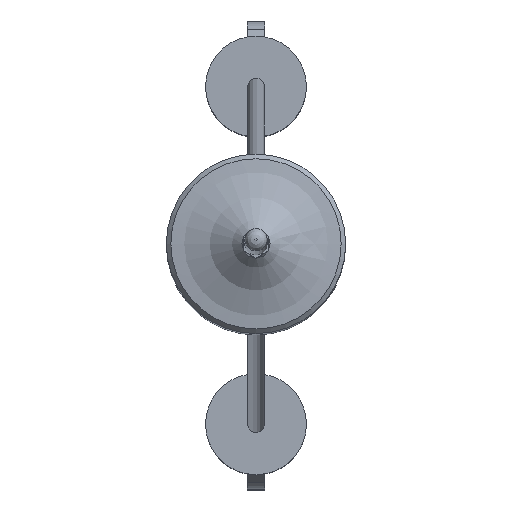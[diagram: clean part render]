
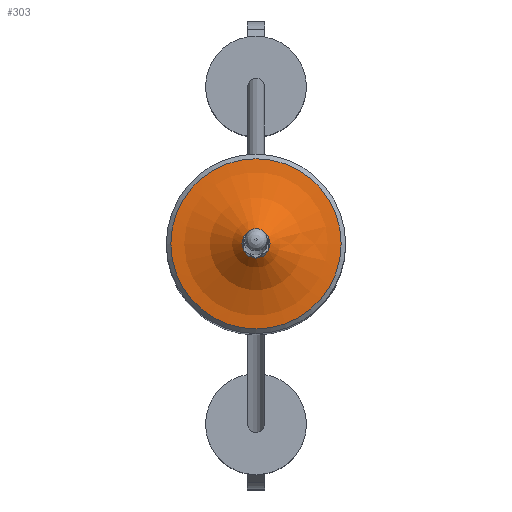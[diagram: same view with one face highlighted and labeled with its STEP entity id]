
A CAD part, top view. The second image highlights one B-rep face of the part: STEP entity #303.
In plain terms, the highlighted toroidal (fillet/blend) face has major radius 4 mm and minor radius 4.524 mm.
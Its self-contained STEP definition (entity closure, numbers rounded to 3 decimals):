
#49 = CARTESIAN_POINT ( 'NONE',  ( -0.494, 0.414, -3.5 ) ) ;
#56 = CARTESIAN_POINT ( 'NONE',  ( 0.55, 0.317, -3.5 ) ) ;
#63 = CARTESIAN_POINT ( 'NONE',  ( -0.635, 0.11, -3.5 ) ) ;
#71 = CARTESIAN_POINT ( 'NONE',  ( -0.112, 0.635, -3.5 ) ) ;
#144 = CARTESIAN_POINT ( 'NONE',  ( 0.55, 0.317, -3.5 ) ) ;
#145 = EDGE_CURVE ( 'NONE', #1350, #2056, #1484, .T. ) ;
#150 = CARTESIAN_POINT ( 'NONE',  ( 0.494, 0.414, -3.5 ) ) ;
#152 = VERTEX_POINT ( 'NONE', #229 ) ;
#157 = EDGE_CURVE ( 'NONE', #331, #331, #274, .T. ) ;
#194 = CARTESIAN_POINT ( 'NONE',  ( 0.55, -0.317, -3.5 ) ) ;
#218 = B_SPLINE_CURVE_WITH_KNOTS ( 'NONE', 3,
 ( #1143, #221, #1348, #1644, #689, #194 ),
 .UNSPECIFIED., .F., .F.,
 ( 4, 2, 4 ),
 ( 0., 0., 0.001 ),
 .UNSPECIFIED. ) ;
#221 = CARTESIAN_POINT ( 'NONE',  ( 0.112, -0.635, -3.5 ) ) ;
#229 = CARTESIAN_POINT ( 'NONE',  ( 0.55, -0.317, -3.5 ) ) ;
#274 = CIRCLE ( 'NONE', #1457, 3.795 ) ;
#303 = ADVANCED_FACE ( 'NONE', ( #1959, #619 ), #2048, .F. ) ;
#331 = VERTEX_POINT ( 'NONE', #486 ) ;
#361 = VERTEX_POINT ( 'NONE', #144 ) ;
#371 = CARTESIAN_POINT ( 'NONE',  ( 0.635, 0.11, -3.5 ) ) ;
#383 = CARTESIAN_POINT ( 'NONE',  ( -0.222, -0.605, -3.5 ) ) ;
#392 = CARTESIAN_POINT ( 'NONE',  ( 0.606, 0.221, -3.5 ) ) ;
#429 = EDGE_CURVE ( 'NONE', #566, #1350, #1206, .T. ) ;
#443 = CARTESIAN_POINT ( 'NONE',  ( -0.55, -0.317, -3.5 ) ) ;
#486 = CARTESIAN_POINT ( 'NONE',  ( 3.795, 0., -4.995 ) ) ;
#533 = ORIENTED_EDGE ( 'NONE', *, *, #781, .F. ) ;
#535 = CARTESIAN_POINT ( 'NONE',  ( 0.635, -0.11, -3.5 ) ) ;
#557 = CARTESIAN_POINT ( 'NONE',  ( -0.55, 0.317, -3.5 ) ) ;
#562 = DIRECTION ( 'NONE',  ( 0., 0., 1. ) ) ;
#566 = VERTEX_POINT ( 'NONE', #567 ) ;
#567 = CARTESIAN_POINT ( 'NONE',  ( 0., 0.635, -3.5 ) ) ;
#619 = FACE_OUTER_BOUND ( 'NONE', #1175, .T. ) ;
#647 = CARTESIAN_POINT ( 'NONE',  ( 0.222, 0.605, -3.5 ) ) ;
#689 = CARTESIAN_POINT ( 'NONE',  ( 0.494, -0.414, -3.5 ) ) ;
#691 = CARTESIAN_POINT ( 'NONE',  ( 0., -0.635, -3.5 ) ) ;
#718 = CARTESIAN_POINT ( 'NONE',  ( -0.55, 0.317, -3.5 ) ) ;
#741 = EDGE_CURVE ( 'NONE', #152, #361, #1708, .T. ) ;
#755 = CARTESIAN_POINT ( 'NONE',  ( -0.55, -0.317, -3.5 ) ) ;
#781 = EDGE_CURVE ( 'NONE', #1612, #152, #218, .T. ) ;
#912 = CARTESIAN_POINT ( 'NONE',  ( -0.606, 0.221, -3.5 ) ) ;
#933 = ORIENTED_EDGE ( 'NONE', *, *, #1713, .F. ) ;
#934 = CARTESIAN_POINT ( 'NONE',  ( 0.413, 0.495, -3.5 ) ) ;
#1052 = EDGE_CURVE ( 'NONE', #361, #566, #1241, .T. ) ;
#1101 = ORIENTED_EDGE ( 'NONE', *, *, #429, .F. ) ;
#1143 = CARTESIAN_POINT ( 'NONE',  ( 0., -0.635, -3.5 ) ) ;
#1175 = EDGE_LOOP ( 'NONE', ( #1875, #1780, #533, #933, #1955, #1101 ) ) ;
#1192 = CARTESIAN_POINT ( 'NONE',  ( -0.112, -0.635, -3.5 ) ) ;
#1198 = CARTESIAN_POINT ( 'NONE',  ( -0.635, -0.11, -3.5 ) ) ;
#1206 = B_SPLINE_CURVE_WITH_KNOTS ( 'NONE', 3,
 ( #1503, #71, #1988, #2024, #49, #557 ),
 .UNSPECIFIED., .F., .F.,
 ( 4, 2, 4 ),
 ( 0., 0., 0.001 ),
 .UNSPECIFIED. ) ;
#1241 = B_SPLINE_CURVE_WITH_KNOTS ( 'NONE', 3,
 ( #1454, #150, #934, #647, #2089, #1578 ),
 .UNSPECIFIED., .F., .F.,
 ( 4, 2, 4 ),
 ( 0., 0., 0.001 ),
 .UNSPECIFIED. ) ;
#1307 = CARTESIAN_POINT ( 'NONE',  ( -0.55, 0.317, -3.5 ) ) ;
#1313 = CARTESIAN_POINT ( 'NONE',  ( 0.55, -0.317, -3.5 ) ) ;
#1338 = CARTESIAN_POINT ( 'NONE',  ( -0.55, -0.317, -3.5 ) ) ;
#1345 = CARTESIAN_POINT ( 'NONE',  ( -0.606, -0.221, -3.5 ) ) ;
#1348 = CARTESIAN_POINT ( 'NONE',  ( 0.222, -0.605, -3.5 ) ) ;
#1350 = VERTEX_POINT ( 'NONE', #1307 ) ;
#1449 = DIRECTION ( 'NONE',  ( 0., 0., 1. ) ) ;
#1454 = CARTESIAN_POINT ( 'NONE',  ( 0.55, 0.317, -3.5 ) ) ;
#1457 = AXIS2_PLACEMENT_3D ( 'NONE', #2065, #562, #1899 ) ;
#1484 = B_SPLINE_CURVE_WITH_KNOTS ( 'NONE', 3,
 ( #718, #912, #63, #1198, #1345, #443 ),
 .UNSPECIFIED., .F., .F.,
 ( 4, 2, 4 ),
 ( 0., 0., 0.001 ),
 .UNSPECIFIED. ) ;
#1503 = CARTESIAN_POINT ( 'NONE',  ( 0., 0.635, -3.5 ) ) ;
#1578 = CARTESIAN_POINT ( 'NONE',  ( 0., 0.635, -3.5 ) ) ;
#1612 = VERTEX_POINT ( 'NONE', #691 ) ;
#1627 = CARTESIAN_POINT ( 'NONE',  ( -0.494, -0.414, -3.5 ) ) ;
#1644 = CARTESIAN_POINT ( 'NONE',  ( 0.413, -0.495, -3.5 ) ) ;
#1646 = CARTESIAN_POINT ( 'NONE',  ( -0.413, -0.495, -3.5 ) ) ;
#1661 = AXIS2_PLACEMENT_3D ( 'NONE', #2094, #1449, #1967 ) ;
#1669 = CARTESIAN_POINT ( 'NONE',  ( 0., -0.635, -3.5 ) ) ;
#1677 = CARTESIAN_POINT ( 'NONE',  ( 0.606, -0.221, -3.5 ) ) ;
#1708 = B_SPLINE_CURVE_WITH_KNOTS ( 'NONE', 3,
 ( #1313, #1677, #535, #371, #392, #56 ),
 .UNSPECIFIED., .F., .F.,
 ( 4, 2, 4 ),
 ( 0., 0., 0.001 ),
 .UNSPECIFIED. ) ;
#1713 = EDGE_CURVE ( 'NONE', #2056, #1612, #2000, .T. ) ;
#1780 = ORIENTED_EDGE ( 'NONE', *, *, #741, .F. ) ;
#1875 = ORIENTED_EDGE ( 'NONE', *, *, #1052, .F. ) ;
#1899 = DIRECTION ( 'NONE',  ( 1., 0., 0. ) ) ;
#1955 = ORIENTED_EDGE ( 'NONE', *, *, #145, .F. ) ;
#1959 = FACE_OUTER_BOUND ( 'NONE', #1966, .T. ) ;
#1966 = EDGE_LOOP ( 'NONE', ( #1987 ) ) ;
#1967 = DIRECTION ( 'NONE',  ( 1., 0., 0. ) ) ;
#1987 = ORIENTED_EDGE ( 'NONE', *, *, #157, .T. ) ;
#1988 = CARTESIAN_POINT ( 'NONE',  ( -0.222, 0.605, -3.5 ) ) ;
#2000 = B_SPLINE_CURVE_WITH_KNOTS ( 'NONE', 3,
 ( #1338, #1627, #1646, #383, #1192, #1669 ),
 .UNSPECIFIED., .F., .F.,
 ( 4, 2, 4 ),
 ( 0., 0., 0.001 ),
 .UNSPECIFIED. ) ;
#2024 = CARTESIAN_POINT ( 'NONE',  ( -0.413, 0.495, -3.5 ) ) ;
#2048 = TOROIDAL_SURFACE ( 'NONE', #1661, 4., 4.524 ) ;
#2056 = VERTEX_POINT ( 'NONE', #755 ) ;
#2065 = CARTESIAN_POINT ( 'NONE',  ( 0., 0., -4.995 ) ) ;
#2089 = CARTESIAN_POINT ( 'NONE',  ( 0.112, 0.635, -3.5 ) ) ;
#2094 = CARTESIAN_POINT ( 'NONE',  ( 0., 0., -0.476 ) ) ;
